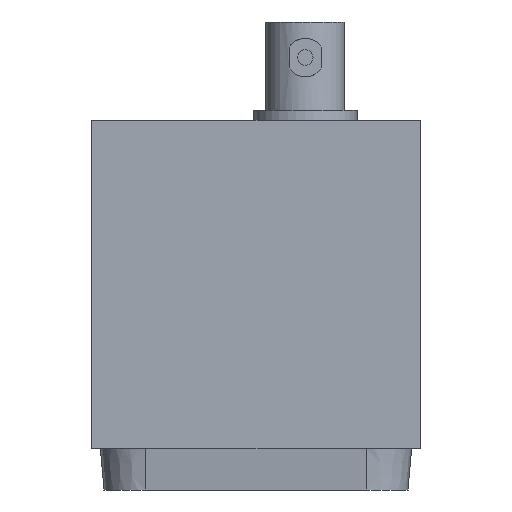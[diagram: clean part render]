
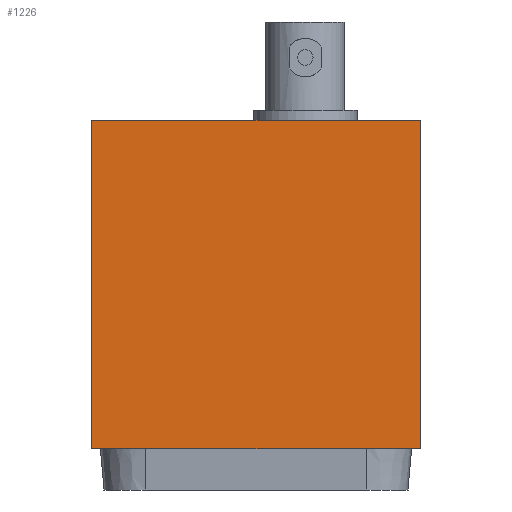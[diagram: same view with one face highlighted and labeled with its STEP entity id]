
A CAD part, left-side view. The second image highlights one B-rep face of the part: STEP entity #1226.
In plain terms, the highlighted planar face has unit normal (-1, 0, 0).
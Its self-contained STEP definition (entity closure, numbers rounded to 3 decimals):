
#53=LINE('',#2031,#109);
#54=LINE('',#2033,#110);
#55=LINE('',#2035,#111);
#56=LINE('',#2036,#112);
#109=VECTOR('',#1611,10.);
#110=VECTOR('',#1612,10.);
#111=VECTOR('',#1613,10.);
#112=VECTOR('',#1614,10.);
#283=FACE_OUTER_BOUND('',#388,.T.);
#388=EDGE_LOOP('',(#890,#891,#892,#893));
#562=VERTEX_POINT('',#2029);
#563=VERTEX_POINT('',#2030);
#564=VERTEX_POINT('',#2032);
#565=VERTEX_POINT('',#2034);
#687=EDGE_CURVE('',#562,#563,#53,.T.);
#688=EDGE_CURVE('',#564,#563,#54,.T.);
#689=EDGE_CURVE('',#564,#565,#55,.T.);
#690=EDGE_CURVE('',#565,#562,#56,.T.);
#890=ORIENTED_EDGE('',*,*,#687,.T.);
#891=ORIENTED_EDGE('',*,*,#688,.F.);
#892=ORIENTED_EDGE('',*,*,#689,.T.);
#893=ORIENTED_EDGE('',*,*,#690,.T.);
#1085=PLANE('',#1352);
#1226=ADVANCED_FACE('',(#283),#1085,.T.);
#1352=AXIS2_PLACEMENT_3D('',#2028,#1609,#1610);
#1609=DIRECTION('center_axis',(-1.,0.,0.));
#1610=DIRECTION('ref_axis',(0.,0.,1.));
#1611=DIRECTION('',(0.,-1.,0.));
#1612=DIRECTION('',(0.,0.,-1.));
#1613=DIRECTION('',(0.,1.,0.));
#1614=DIRECTION('',(0.,0.,-1.));
#2028=CARTESIAN_POINT('Origin',(-60.,20.,0.));
#2029=CARTESIAN_POINT('',(-60.,20.,-40.));
#2030=CARTESIAN_POINT('',(-60.,-20.,-40.));
#2031=CARTESIAN_POINT('',(-60.,-20.,-40.));
#2032=CARTESIAN_POINT('',(-60.,-20.,0.));
#2033=CARTESIAN_POINT('',(-60.,-20.,0.));
#2034=CARTESIAN_POINT('',(-60.,20.,0.));
#2035=CARTESIAN_POINT('',(-60.,-20.,0.));
#2036=CARTESIAN_POINT('',(-60.,20.,0.));
